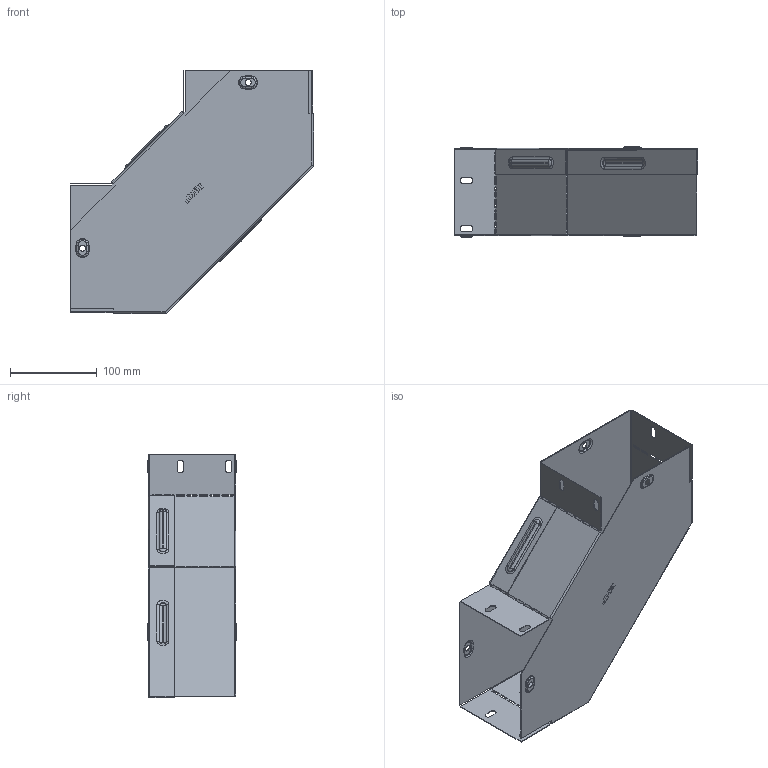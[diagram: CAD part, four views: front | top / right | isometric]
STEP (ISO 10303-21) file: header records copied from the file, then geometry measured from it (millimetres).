
FILE_DESCRIPTION (( 'STEP AP214' ), '1' );
FILE_NAME ('g90100150_捘.STEP', '2019-06-10T09:51:56', ( '砐錪賧瘔蠈錪 Windows' ), ( '' ), 'SwSTEP 2.0', 'SolidWorks 2018', '' );
FILE_SCHEMA (( 'AUTOMOTIVE_DESIGN' ));
Length unit declared in the file: millimetre
Products named in the file (1): g90100150_捘
Bounding box: 280.8 x 103.8 x 280.8 mm (x, y, z)
Volume: 140125.6 mm3; surface area: 353876 mm2
Topology: 2 solids, 2 shells, 604 faces, 1704 edges, 1104 vertices
Faces by surface type: plane 360, cylinder 154, torus 64, bspline 26
Entity records: 20841 total; most frequent: CARTESIAN_POINT 4889, ORIENTED_EDGE 3408, DIRECTION 3186, EDGE_CURVE 1704, VECTOR 1252, LINE 1252, VERTEX_POINT 1104, AXIS2_PLACEMENT_3D 967
